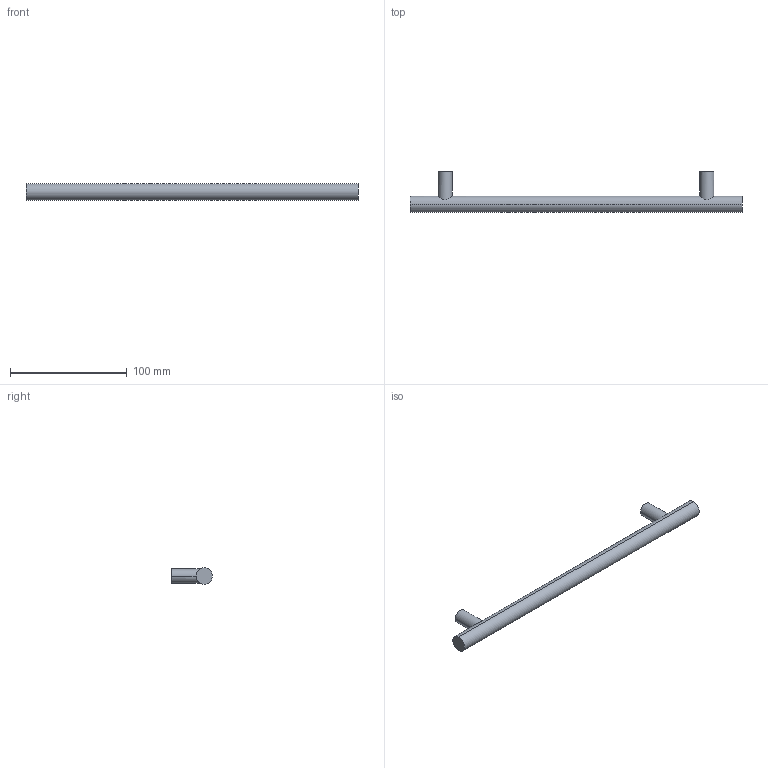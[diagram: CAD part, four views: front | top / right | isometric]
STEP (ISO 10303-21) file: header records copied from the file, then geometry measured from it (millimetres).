
FILE_DESCRIPTION( ( '' ), '1' );
FILE_NAME( 'D:/1.AUTOCAD EXPORT/Group 10/sheet_10_1/9071051.stp', '2013-10-21T10:06:58', ( '' ), ( '' ), ' ', ' ', ' ' );
FILE_SCHEMA( ( 'automotive_design' ) );
Length unit declared in the file: millimetre
Products named in the file (1): 1
Bounding box: 284 x 35 x 14 mm (x, y, z)
Volume: 48330.4 mm3; surface area: 14770.7 mm2
Topology: 1 solids, 1 shells, 16 faces, 32 edges, 22 vertices
Faces by surface type: cylinder 10, plane 6
Entity records: 972 total; most frequent: CARTESIAN_POINT 205, DIRECTION 76, STYLED_ITEM 71, PRESENTATION_STYLE_ASSIGNMENT 71, COLOUR_RGB 71, ORIENTED_EDGE 64, AXIS2_PLACEMENT_3D 33, EDGE_CURVE 32
